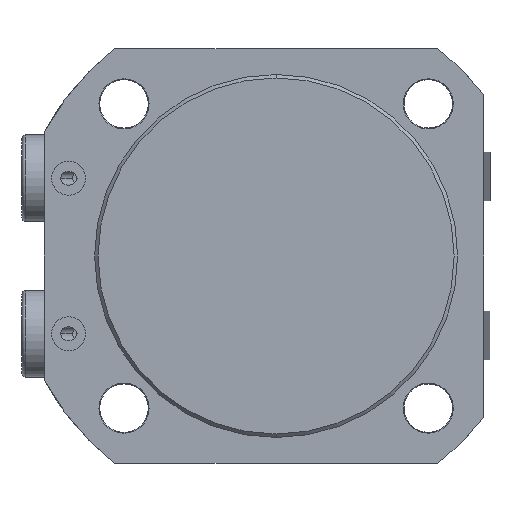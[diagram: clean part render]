
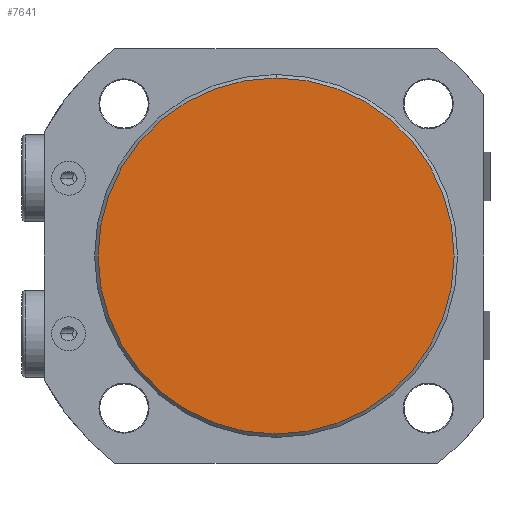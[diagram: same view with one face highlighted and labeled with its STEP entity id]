
A CAD part, front view. The second image highlights one B-rep face of the part: STEP entity #7641.
In plain terms, the highlighted planar face has unit normal (0, -1, 0).
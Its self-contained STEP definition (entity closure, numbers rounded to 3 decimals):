
#136 = AXIS2_PLACEMENT_3D ( 'NONE', #4006, #418, #4596 ) ;
#367 = ORIENTED_EDGE ( 'NONE', *, *, #4043, .T. ) ;
#418 = DIRECTION ( 'NONE',  ( 0., -1., 0. ) ) ;
#469 = AXIS2_PLACEMENT_3D ( 'NONE', #2114, #3317, #7551 ) ;
#772 = VERTEX_POINT ( 'NONE', #1394 ) ;
#908 = PLANE ( 'NONE',  #469 ) ;
#1394 = CARTESIAN_POINT ( 'NONE',  ( 0., 0., 51.5 ) ) ;
#1655 = EDGE_LOOP ( 'NONE', ( #367, #6766 ) ) ;
#2114 = CARTESIAN_POINT ( 'NONE',  ( 0., 0., 0. ) ) ;
#2659 = CARTESIAN_POINT ( 'NONE',  ( 0., 0., -51.5 ) ) ;
#2713 = DIRECTION ( 'NONE',  ( 0., -1., 0. ) ) ;
#3317 = DIRECTION ( 'NONE',  ( 0., 1., 0. ) ) ;
#4006 = CARTESIAN_POINT ( 'NONE',  ( 0., 0., 0. ) ) ;
#4043 = EDGE_CURVE ( 'NONE', #772, #7596, #4720, .T. ) ;
#4596 = DIRECTION ( 'NONE',  ( 0., 0., 1. ) ) ;
#4720 = CIRCLE ( 'NONE', #136, 51.5 ) ;
#5853 = AXIS2_PLACEMENT_3D ( 'NONE', #6316, #2713, #6939 ) ;
#6042 = FACE_OUTER_BOUND ( 'NONE', #1655, .T. ) ;
#6316 = CARTESIAN_POINT ( 'NONE',  ( 0., 0., 0. ) ) ;
#6766 = ORIENTED_EDGE ( 'NONE', *, *, #7636, .T. ) ;
#6939 = DIRECTION ( 'NONE',  ( 0., 0., 1. ) ) ;
#7551 = DIRECTION ( 'NONE',  ( 0., 0., 1. ) ) ;
#7596 = VERTEX_POINT ( 'NONE', #2659 ) ;
#7636 = EDGE_CURVE ( 'NONE', #7596, #772, #7666, .T. ) ;
#7641 = ADVANCED_FACE ( 'NONE', ( #6042 ), #908, .F. ) ;
#7666 = CIRCLE ( 'NONE', #5853, 51.5 ) ;
